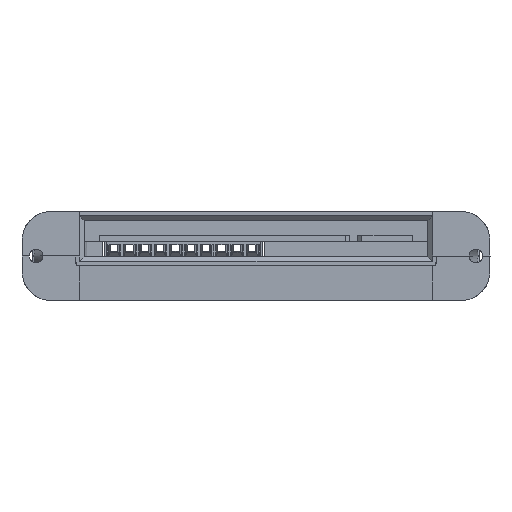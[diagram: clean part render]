
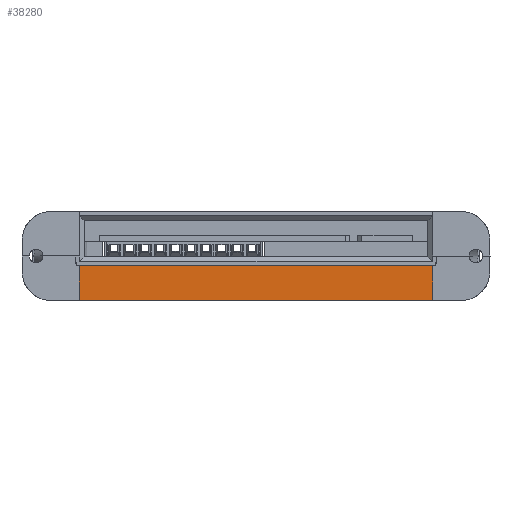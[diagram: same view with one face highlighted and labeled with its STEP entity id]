
A CAD part, left-side view. The second image highlights one B-rep face of the part: STEP entity #38280.
In plain terms, the highlighted planar face has unit normal (-1, 0, -0.018).
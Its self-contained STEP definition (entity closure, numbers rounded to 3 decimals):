
#3106 = DIRECTION ( 'NONE',  ( 0.017, 0., -1. ) ) ;
#3741 = ORIENTED_EDGE ( 'NONE', *, *, #3858, .T. ) ;
#3858 = EDGE_CURVE ( 'NONE', #33143, #49917, #17533, .T. ) ;
#4676 = VECTOR ( 'NONE', #49185, 1000. ) ;
#5252 = CARTESIAN_POINT ( 'NONE',  ( -138.994, -68.8, 11. ) ) ;
#5348 = CARTESIAN_POINT ( 'NONE',  ( -138.952, -68.8, 8.6 ) ) ;
#5934 = LINE ( 'NONE', #37233, #4676 ) ;
#7249 = CARTESIAN_POINT ( 'NONE',  ( -138.802, -68.8, 0. ) ) ;
#8067 = EDGE_LOOP ( 'NONE', ( #3741, #29724, #44812, #38932 ) ) ;
#10917 = PLANE ( 'NONE',  #36777 ) ;
#13750 = VECTOR ( 'NONE', #40885, 1000. ) ;
#17533 = LINE ( 'NONE', #39298, #25602 ) ;
#19401 = EDGE_CURVE ( 'NONE', #49917, #41686, #46567, .T. ) ;
#19901 = CARTESIAN_POINT ( 'NONE',  ( -138.952, 18.8, 8.6 ) ) ;
#23617 = DIRECTION ( 'NONE',  ( 0., -1., 0. ) ) ;
#25602 = VECTOR ( 'NONE', #23617, 1000. ) ;
#25606 = CARTESIAN_POINT ( 'NONE',  ( -138.994, 18.8, 11. ) ) ;
#26814 = DIRECTION ( 'NONE',  ( -1., 0., -0.017 ) ) ;
#29724 = ORIENTED_EDGE ( 'NONE', *, *, #19401, .T. ) ;
#29731 = DIRECTION ( 'NONE',  ( -0.017, 0., 1. ) ) ;
#33143 = VERTEX_POINT ( 'NONE', #43349 ) ;
#34135 = FACE_OUTER_BOUND ( 'NONE', #8067, .T. ) ;
#35728 = VECTOR ( 'NONE', #29731, 1000. ) ;
#36777 = AXIS2_PLACEMENT_3D ( 'NONE', #50475, #26814, #3106 ) ;
#36954 = LINE ( 'NONE', #25606, #35728 ) ;
#37233 = CARTESIAN_POINT ( 'NONE',  ( -138.952, -80., 8.6 ) ) ;
#38280 = ADVANCED_FACE ( 'NONE', ( #34135 ), #10917, .T. ) ;
#38932 = ORIENTED_EDGE ( 'NONE', *, *, #41775, .F. ) ;
#39298 = CARTESIAN_POINT ( 'NONE',  ( -138.802, 30., 0. ) ) ;
#40885 = DIRECTION ( 'NONE',  ( -0.017, 0., 1. ) ) ;
#41686 = VERTEX_POINT ( 'NONE', #5348 ) ;
#41775 = EDGE_CURVE ( 'NONE', #33143, #46195, #36954, .T. ) ;
#42352 = EDGE_CURVE ( 'NONE', #41686, #46195, #5934, .T. ) ;
#43349 = CARTESIAN_POINT ( 'NONE',  ( -138.802, 18.8, 0. ) ) ;
#44812 = ORIENTED_EDGE ( 'NONE', *, *, #42352, .T. ) ;
#46195 = VERTEX_POINT ( 'NONE', #19901 ) ;
#46567 = LINE ( 'NONE', #5252, #13750 ) ;
#49185 = DIRECTION ( 'NONE',  ( 0., 1., 0. ) ) ;
#49917 = VERTEX_POINT ( 'NONE', #7249 ) ;
#50475 = CARTESIAN_POINT ( 'NONE',  ( -138.994, -80., 11. ) ) ;
